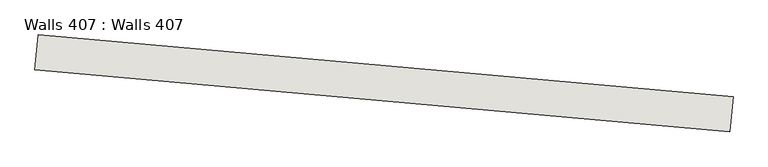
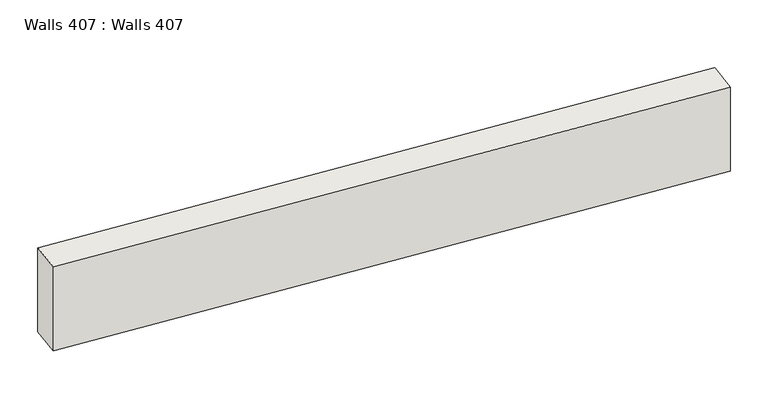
"""IFC4 building model written with IfcOpenShell, lengths in millimetres: wall geometry, Walls 407 : Walls 407."""

from ifc_helpers import new_model, si_unit, frame, origin, place, context, project, spatial, polyline, outline, extrude, source, transform, mapped, element, save


def walls_407_walls_407_fd23d832(model_context):
    return source(origin(), model_context, "Body", "SweptSolid", [
        extrude(outline(polyline([(-539170.1461408, -430644.9122213), (-539205.6410709, -431043.3342462), (-547174.0815693, -430333.4356449), (-547138.5866393, -429935.01362), (-539170.1461408, -430644.9122213)])), frame((0.0, 0.0, 636860.0), z_axis=(0.0, 0.0, 1.0), x_axis=(1.0, 0.0, 0.0)), (0.0, 0.0, 1.0), 1100.0),
    ])


if __name__ == "__main__":
    model = new_model("IFC4")
    model_context = context("Model", 3, world=origin())
    ifc_project = project(units=[si_unit("LENGTHUNIT", "METRE", prefix="MILLI")], contexts=[model_context])
    site = spatial("IfcSite", under=ifc_project)
    building = spatial("IfcBuilding", under=site)
    placement = place(None, origin())
    walls_407_walls_407_shape = walls_407_walls_407_fd23d832(model_context)
    element("IfcWall", 1, ObjectType="Walls 407 : Walls 407", at=placement, inside=building, context=model_context, shape_type="MappedRepresentation", body=[
        mapped(walls_407_walls_407_shape, transform((0.0, 0.0, 0.0), x_axis=(1.0, 0.0, 0.0), y_axis=(0.0, 1.0, 0.0), z_axis=(0.0, 0.0, 1.0))),
    ])
    save(model, "model.ifc")
